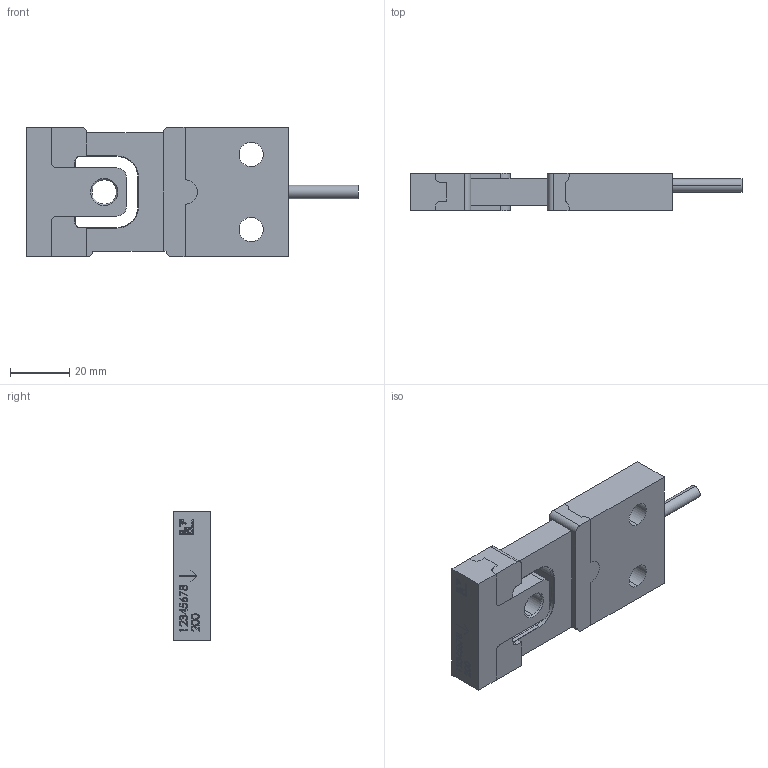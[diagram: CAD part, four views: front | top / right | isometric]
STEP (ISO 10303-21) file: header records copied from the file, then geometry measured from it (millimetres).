
FILE_DESCRIPTION (( 'STEP AP214' ), '1' );
FILE_NAME ('ZLS-200 kg Assembly.STEP', '2017-08-30T03:56:45', ( '' ), ( '' ), 'SwSTEP 2.0', 'SolidWorks 2017', '' );
FILE_SCHEMA (( 'AUTOMOTIVE_DESIGN' ));
Length unit declared in the file: millimetre
Products named in the file (1): ZLS-200 kg Assembly
Bounding box: 112.38 x 12.7 x 44 mm (x, y, z)
Volume: 40170.6 mm3; surface area: 21911.7 mm2
Topology: 3 solids, 3 shells, 437 faces, 1152 edges, 749 vertices
Faces by surface type: plane 219, cylinder 128, bspline 86, cone 4
Entity records: 23236 total; most frequent: CARTESIAN_POINT 7935, ORIENTED_EDGE 2288, DIRECTION 1941, EDGE_CURVE 1144, VERTEX_POINT 749, LINE 707, VECTOR 707, AXIS2_PLACEMENT_3D 617
